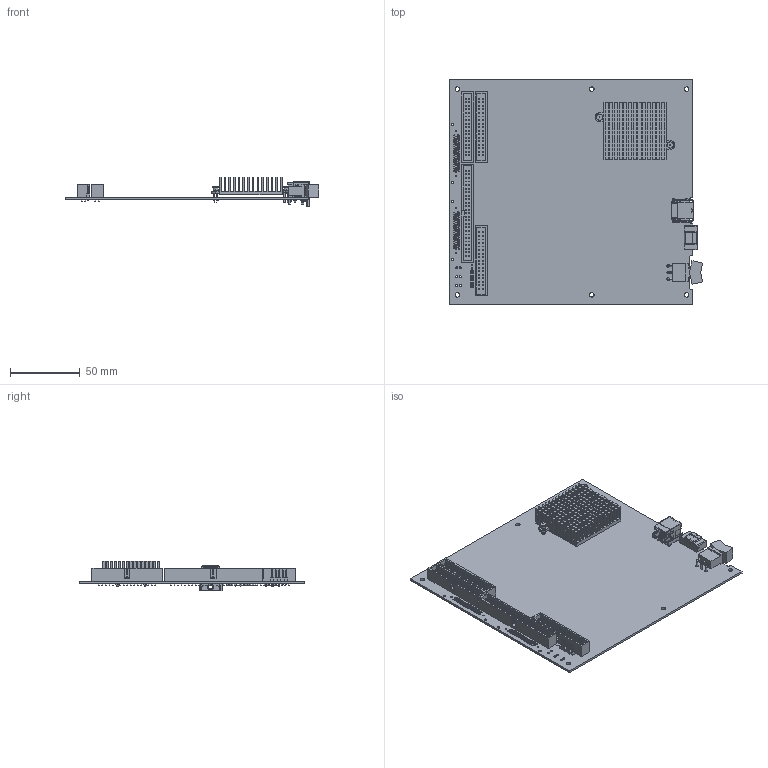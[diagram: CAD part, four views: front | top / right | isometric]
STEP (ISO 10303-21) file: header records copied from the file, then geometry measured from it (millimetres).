
FILE_DESCRIPTION((''),'2;1');
FILE_NAME('CU_USB-785XR_OEM','2013-11-21T',('dkendric'),(''),'PRO/ENGINEER BY PARAMETRIC TECHNOLOGY CORPORATION, 2011490','PRO/ENGINEER BY PARAMETRIC TECHNOLOGY CORPORATION, 2011490','');
FILE_SCHEMA(('CONFIG_CONTROL_DESIGN'));
Products named in the file (1): CU_USB-785XR_OEM
Bounding box: 182.3 x 162.56 x 21.46 mm (x, y, z)
Volume: 67273.8 mm3; surface area: 93574.4 mm2
Topology: 4 solids, 5 shells, 5278 faces, 14162 edges, 9352 vertices
Faces by surface type: plane 4036, cylinder 1172, bspline 40, cone 14, torus 10, sphere 4, extrusion 2
Entity records: 165382 total; most frequent: CARTESIAN_POINT 30399, ORIENTED_EDGE 28236, DIRECTION 26894, EDGE_CURVE 14118, VECTOR 11524, LINE 11522, VERTEX_POINT 9390, AXIS2_PLACEMENT_3D 7685
